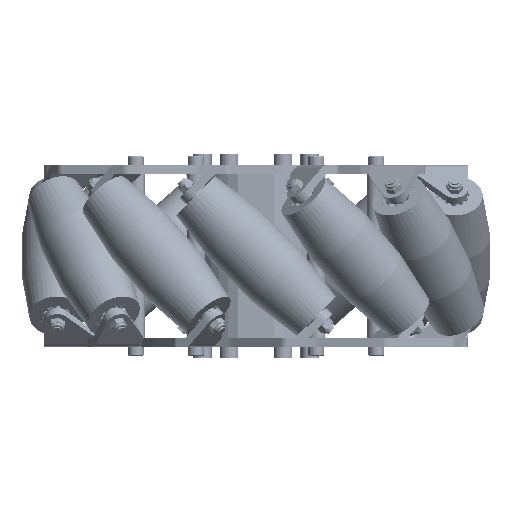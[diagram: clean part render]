
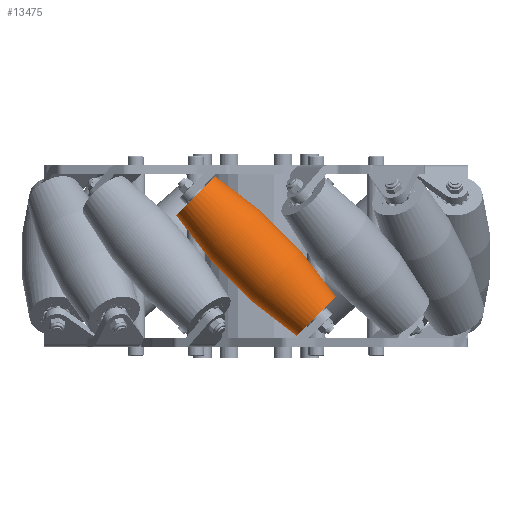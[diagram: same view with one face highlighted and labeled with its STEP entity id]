
A CAD part, front view. The second image highlights one B-rep face of the part: STEP entity #13475.
In plain terms, the highlighted toroidal (fillet/blend) face has major radius 217.5 mm and minor radius 237 mm.
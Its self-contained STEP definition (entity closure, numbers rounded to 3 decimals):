
#212 = TOROIDAL_SURFACE ( 'NONE', #13059, -217.5, 237. ) ;
#1262 = DIRECTION ( 'NONE',  ( -0.707, 0., -0.707 ) ) ;
#1333 = CARTESIAN_POINT ( 'NONE',  ( -32.527, 107.5, -32.527 ) ) ;
#1542 = CARTESIAN_POINT ( 'NONE',  ( -21.925, 107.5, -43.129 ) ) ;
#2023 = CARTESIAN_POINT ( 'NONE',  ( 43.129, 107.5, 21.925 ) ) ;
#2640 = DIRECTION ( 'NONE',  ( -0.707, 0., -0.707 ) ) ;
#3820 = AXIS2_PLACEMENT_3D ( 'NONE', #17004, #1262, #8261 ) ;
#4246 = EDGE_CURVE ( 'NONE', #18943, #10824, #19046, .T. ) ;
#4549 = ORIENTED_EDGE ( 'NONE', *, *, #21432, .T. ) ;
#6868 = DIRECTION ( 'NONE',  ( 0., 1., 0. ) ) ;
#8261 = DIRECTION ( 'NONE',  ( -0.707, 0., 0.707 ) ) ;
#8330 = DIRECTION ( 'NONE',  ( -0.707, 0., -0.707 ) ) ;
#8542 = CARTESIAN_POINT ( 'NONE',  ( 153.796, 107.5, -153.796 ) ) ;
#9580 = VERTEX_POINT ( 'NONE', #18093 ) ;
#9644 = DIRECTION ( 'NONE',  ( -0.707, 0., 0.707 ) ) ;
#9786 = CIRCLE ( 'NONE', #14685, 237. ) ;
#10495 = AXIS2_PLACEMENT_3D ( 'NONE', #16929, #6868, #13889 ) ;
#10824 = VERTEX_POINT ( 'NONE', #1542 ) ;
#10830 = EDGE_CURVE ( 'NONE', #9580, #18943, #9786, .T. ) ;
#11994 = EDGE_CURVE ( 'NONE', #9580, #12727, #13748, .T. ) ;
#12727 = VERTEX_POINT ( 'NONE', #2023 ) ;
#13059 = AXIS2_PLACEMENT_3D ( 'NONE', #18395, #2640, #9644 ) ;
#13475 = ADVANCED_FACE ( 'NONE', ( #20116 ), #212, .T. ) ;
#13659 = ORIENTED_EDGE ( 'NONE', *, *, #10830, .F. ) ;
#13668 = EDGE_LOOP ( 'NONE', ( #14443, #4549, #15444, #13659 ) ) ;
#13748 = CIRCLE ( 'NONE', #3820, 14.993 ) ;
#13889 = DIRECTION ( 'NONE',  ( -1., 0., 0. ) ) ;
#14443 = ORIENTED_EDGE ( 'NONE', *, *, #11994, .T. ) ;
#14685 = AXIS2_PLACEMENT_3D ( 'NONE', #8542, #15551, #22585 ) ;
#15336 = DIRECTION ( 'NONE',  ( -0.707, 0., 0.707 ) ) ;
#15444 = ORIENTED_EDGE ( 'NONE', *, *, #4246, .F. ) ;
#15551 = DIRECTION ( 'NONE',  ( 0., -1., 0. ) ) ;
#16929 = CARTESIAN_POINT ( 'NONE',  ( -153.796, 107.5, 153.796 ) ) ;
#17004 = CARTESIAN_POINT ( 'NONE',  ( 32.527, 107.5, 32.527 ) ) ;
#18093 = CARTESIAN_POINT ( 'NONE',  ( 21.925, 107.5, 43.129 ) ) ;
#18395 = CARTESIAN_POINT ( 'NONE',  ( 0., 107.5, 0. ) ) ;
#18572 = CARTESIAN_POINT ( 'NONE',  ( -43.129, 107.5, -21.925 ) ) ;
#18943 = VERTEX_POINT ( 'NONE', #18572 ) ;
#19046 = CIRCLE ( 'NONE', #22001, 14.993 ) ;
#20116 = FACE_OUTER_BOUND ( 'NONE', #13668, .T. ) ;
#20420 = CIRCLE ( 'NONE', #10495, 237. ) ;
#21432 = EDGE_CURVE ( 'NONE', #12727, #10824, #20420, .T. ) ;
#22001 = AXIS2_PLACEMENT_3D ( 'NONE', #1333, #8330, #15336 ) ;
#22585 = DIRECTION ( 'NONE',  ( 0., 0., -1. ) ) ;
